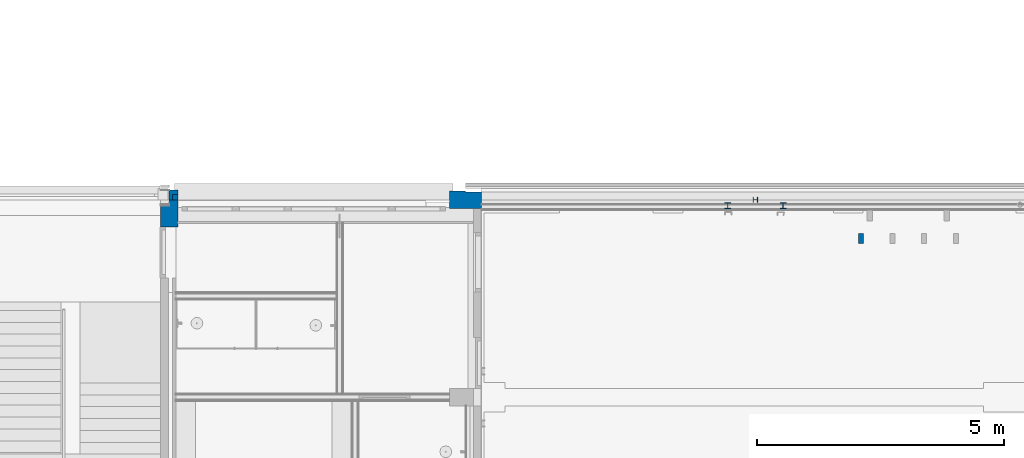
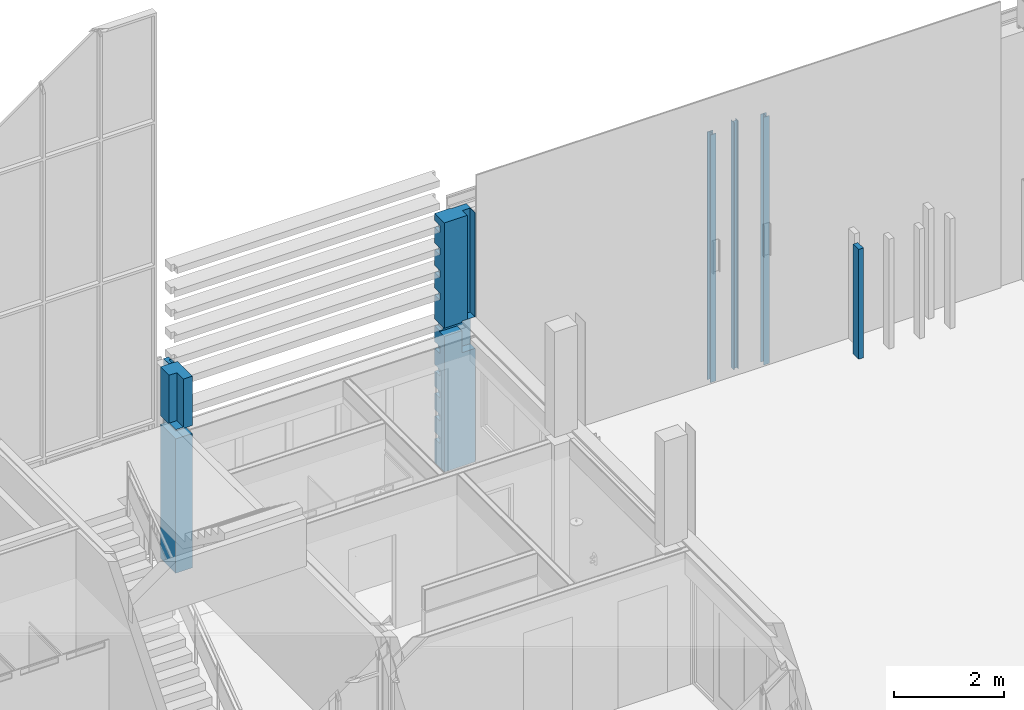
# One storey, part 8 of 109: 8 columns.
"""IFC2X3 building model written with IfcOpenShell, lengths in millimetres."""

from ifc_helpers import new_model, entity, si_unit, converted_unit, derived_unit, money_unit, direction, frame, origin_with_axes, place, context, subcontext, project, spatial, faceted_brep, material, type_object, element, save


model = new_model("IFC2X3")

# Units and contexts
model_context = context("Model", 3, precision=0.01, world=origin_with_axes(), true_north=direction((0.0, 1.0)))
body_context = subcontext(model_context, "Body", "Model", "MODEL_VIEW")
ifc_project = project(units=[si_unit("LENGTHUNIT", "METRE", prefix="MILLI"), si_unit("AREAUNIT", "SQUARE_METRE"), si_unit("VOLUMEUNIT", "CUBIC_METRE"), converted_unit("PLANEANGLEUNIT", "DEGREE", entity("IfcPlaneAngleMeasure", 0.0174532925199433), si_unit("PLANEANGLEUNIT", "RADIAN"), dimensions=[0, 0, 0, 0, 0, 0, 0]), money_unit("EUR"), converted_unit("TIMEUNIT", "Year", entity("IfcTimeMeasure", 31557600.0), si_unit("TIMEUNIT", "SECOND"), dimensions=[0, 0, 1, 0, 0, 0, 0]), si_unit("MASSUNIT", "GRAM", prefix="KILO"), si_unit("THERMODYNAMICTEMPERATUREUNIT", "DEGREE_CELSIUS"), si_unit("LUMINOUSINTENSITYUNIT", "LUMEN"), si_unit("ENERGYUNIT", "JOULE", prefix="MEGA"), derived_unit("THERMALCONDUCTANCEUNIT", [(si_unit("POWERUNIT", "WATT"), 1), (si_unit("LENGTHUNIT", "METRE"), -1), (si_unit("THERMODYNAMICTEMPERATUREUNIT", "KELVIN"), -1)]), derived_unit("SPECIFICHEATCAPACITYUNIT", [(si_unit("ENERGYUNIT", "JOULE"), 1), (si_unit("MASSUNIT", "GRAM", prefix="KILO"), -1), (si_unit("THERMODYNAMICTEMPERATUREUNIT", "KELVIN"), -1)]), derived_unit("MASSDENSITYUNIT", [(si_unit("MASSUNIT", "GRAM", prefix="KILO"), 1), (si_unit("VOLUMEUNIT", "CUBIC_METRE"), -1)])], contexts=[model_context])

# Site, building, storey
site_placement = place(None, origin_with_axes())
site = spatial("IfcSite", under=ifc_project, at=site_placement, Name="<site naam>", CompositionType="ELEMENT")
building_placement = place(site_placement, origin_with_axes())
building = spatial("IfcBuilding", under=site, at=building_placement, Name="<Naam gebouw>", CompositionType="ELEMENT")
storey_placement = place(building_placement, origin_with_axes())
storey = spatial("IfcBuildingStorey", under=building, at=storey_placement, Name="00 Begane grond", CompositionType="ELEMENT", Elevation=0.0)

# Columns
ifc_material_1 = material(Name="betonblok C")
column_type_1 = type_object("IfcColumnType", Name="betonblok C 350 x 550", PredefinedType="COLUMN")
column_1_placement = place(storey_placement, frame((52000.00000000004, 19724.99999999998, 0.0), z_axis=(0.0, 0.0, 1.0), x_axis=(1.0, 0.0, 0.0)))
element("IfcColumn", 1, at=column_1_placement, inside=storey, type_object=column_type_1, material=ifc_material_1, Name="28_Kolom_betonblok", ObjectType="COLUMN", context=body_context, shape_type="Brep", body=[
    faceted_brep([(174.9999999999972, 275.0000000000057, 500.0), (174.9999999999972, 264.9999975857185, 500.0), (174.9999999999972, 264.9999975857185, 649.9999999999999), (174.9999999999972, 275.0000000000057, 649.9999999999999), (174.9999999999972, 275.0000000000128, 1000.0), (174.9999999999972, 264.9999975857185, 1000.0), (174.9999999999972, 264.9999975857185, 1150.0), (174.9999999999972, 275.0000000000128, 1150.0), (174.9999999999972, 275.0000000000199, 1510.0), (174.9999999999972, 264.9999975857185, 1510.0), (174.9999999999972, 264.9999975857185, 1660.0), (174.9999999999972, 275.0000000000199, 1660.0), (174.9999999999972, 275.0000000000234, 2000.0), (174.9999999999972, 264.9999975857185, 2000.0), (174.9999999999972, 264.9999975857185, 2150.0), (174.9999999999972, 275.000000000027, 2150.0), (174.9999999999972, 275.0000000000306, 2500.0), (174.9999999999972, 264.9999975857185, 2500.0), (174.9999999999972, 264.9999975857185, 2650.0), (174.9999999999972, 275.0000000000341, 2650.0), (174.9999999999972, 275.0000000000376, 2978.0), (174.9999999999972, -274.9999999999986, 2978.0), (174.9999999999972, -274.9999999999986, 0.0), (174.9999999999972, 274.9999999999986, 0.0), (104.9999999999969, 264.9999975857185, 500.0), (104.9999999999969, 275.0000000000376, 500.0), (104.9999999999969, 264.9999975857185, 649.9999999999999), (104.9999999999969, 275.0000000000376, 649.9999999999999), (-174.9999999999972, 274.9999999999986, 0.0), (-174.9999999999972, 275.0000000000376, 2978.0), (104.9999999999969, 275.0000000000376, 2650.0), (104.9999999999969, 275.0000000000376, 2500.0), (104.9999999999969, 275.0000000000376, 2150.0), (104.9999999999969, 275.0000000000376, 2000.0), (104.9999999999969, 275.0000000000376, 1660.0), (104.9999999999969, 275.0000000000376, 1510.0), (104.9999999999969, 275.0000000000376, 1150.0), (104.9999999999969, 275.0000000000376, 1000.0), (104.9999999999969, 264.9999975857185, 1000.0), (104.9999999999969, 264.9999975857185, 1150.0), (104.9999999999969, 264.9999975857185, 1510.0), (104.9999999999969, 264.9999975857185, 1660.0), (104.9999999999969, 264.9999975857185, 2000.0), (104.9999999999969, 264.9999975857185, 2150.0), (104.9999999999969, 264.9999975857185, 2500.0), (104.9999999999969, 264.9999975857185, 2650.0), (-174.9999999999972, -274.9999999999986, 2978.0), (-174.9999999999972, -274.9999999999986, 0.0)], [[[0, 1, 2, 3, 4, 5, 6, 7, 8, 9, 10, 11, 12, 13, 14, 15, 16, 17, 18, 19, 20, 21, 22, 23]], [[24, 1, 0, 25]], [[26, 2, 1, 24]], [[26, 27, 3, 2]], [[27, 25, 0, 23, 28, 29, 20, 19, 30, 31, 16, 15, 32, 33, 12, 11, 34, 35, 8, 7, 36, 37, 4, 3]], [[38, 5, 4, 37]], [[39, 6, 5, 38]], [[39, 36, 7, 6]], [[40, 9, 8, 35]], [[41, 10, 9, 40]], [[41, 34, 11, 10]], [[42, 13, 12, 33]], [[43, 14, 13, 42]], [[43, 32, 15, 14]], [[44, 17, 16, 31]], [[45, 18, 17, 44]], [[45, 30, 19, 18]], [[29, 46, 21, 20]], [[47, 22, 21, 46]], [[47, 28, 23, 22]], [[24, 25, 27, 26]], [[28, 47, 46, 29]], [[44, 31, 30, 45]], [[42, 33, 32, 43]], [[40, 35, 34, 41]], [[38, 37, 36, 39]]]),
    faceted_brep([(174.9999999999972, 275.0000000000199, 3687.5), (174.9999999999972, 264.9999975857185, 3687.5), (174.9999999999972, 264.9999975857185, 3837.5), (174.9999999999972, 275.0000000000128, 3837.5), (174.9999999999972, 275.0000000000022, 4187.5), (174.9999999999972, 264.9999975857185, 4187.5), (174.9999999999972, 264.9999975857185, 4250.0), (174.9999999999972, -274.9999999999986, 4250.0), (174.9999999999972, -274.9999999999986, 3158.0), (174.9999999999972, 275.0000000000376, 3158.0), (104.9999999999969, 264.9999975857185, 3687.5), (104.9999999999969, 275.0000000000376, 3687.5), (104.9999999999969, 264.9999975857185, 3837.5), (104.9999999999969, 275.0000000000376, 3837.5), (-174.9999999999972, 275.0000000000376, 3158.0), (-174.9999999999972, 274.9999999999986, 4250.0), (104.9999999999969, 274.9999999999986, 4250.0), (104.9999999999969, 275.0000000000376, 4187.5), (104.9999999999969, 264.9999975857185, 4187.5), (104.9999999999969, 264.9999975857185, 4250.0), (-175.0000000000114, -39.08932188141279, 4250.0), (-15.00000000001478, -39.08932188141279, 4250.0), (-15.00000000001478, -274.9999999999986, 4250.0), (-15.00000000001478, -274.9999999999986, 3188.0), (-175.0000000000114, -274.9999999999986, 3188.0), (-174.9999999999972, -274.9999999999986, 3158.0), (-175.0000000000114, -39.08932188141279, 3188.0), (-15.00000000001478, -39.08932188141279, 3188.0)], [[[0, 1, 2, 3, 4, 5, 6, 7, 8, 9]], [[10, 1, 0, 11]], [[12, 2, 1, 10]], [[12, 13, 3, 2]], [[13, 11, 0, 9, 14, 15, 16, 17, 4, 3]], [[18, 5, 4, 17]], [[18, 19, 6, 5]], [[6, 19, 16, 15, 20, 21, 22, 7]], [[23, 24, 25, 8, 7, 22]], [[8, 25, 14, 9]], [[10, 11, 13, 12]], [[20, 15, 14, 25, 24, 26]], [[18, 17, 16, 19]], [[20, 26, 27, 21]], [[21, 27, 23, 22]], [[23, 27, 26, 24]]]),
])
column_type_2 = type_object("IfcColumnType", Name="betonblok C 350 x 650", PredefinedType="COLUMN")
column_2_placement = place(storey_placement, frame((58000.00000000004, 19999.99999999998, -30.0), z_axis=(0.0, 0.0, 1.0), x_axis=(0.0, -1.0, 0.0)))
element("IfcColumn", 2, at=column_2_placement, inside=storey, type_object=column_type_2, material=ifc_material_1, Name="28_Kolom_betonblok", ObjectType="COLUMN", context=body_context, shape_type="Brep", body=[
    faceted_brep([(0.0, 324.9999999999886, 3217.5), (0.0, 324.9999999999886, 2517.5), (175.0000000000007, 324.9999999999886, 2517.5), (175.0000000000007, 325.0000000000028, 30.0), (-160.0000000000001, 325.0000000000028, 30.0), (-160.0000000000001, 325.0000000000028, 5524.999999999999), (175.0000000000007, 325.0000000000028, 5524.999999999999), (175.0000000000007, 324.9999999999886, 3217.5), (0.0, 44.99999999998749, 3217.5), (0.0, 44.99999999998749, 3188.0), (0.0, -325.0000000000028, 3188.0), (0.0, -325.0000000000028, 3180.0), (0.0, -254.5009301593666, 3180.0), (0.0, -254.5009301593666, 3030.0), (0.0, -325.0000000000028, 3030.0), (0.0, -325.0000000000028, 3008.0), (0.0, 44.99999999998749, 3008.0), (0.0, 44.99999999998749, 2517.5), (175.0000000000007, 44.99999999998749, 2517.5), (174.9999999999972, 44.99999999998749, 3008.0), (175.0000000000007, -325.0000000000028, 3008.0), (175.0000000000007, -325.0000000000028, 0.0), (175.0000000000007, 317.7828447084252, 0.0), (175.0000000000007, 317.7828447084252, 29.99999997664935), (-160.0000000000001, 317.7828447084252, 30.0), (-160.0000000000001, 0.0, 0.0), (-160.0000000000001, 0.0, 5524.999999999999), (-160.0000000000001, 317.7828447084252, 0.0), (175.0000000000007, 317.7828447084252, 5524.999999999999), (-175.0000000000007, 0.0, 5524.999999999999), (-175.0000000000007, -325.0000000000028, 5524.999999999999), (175.0000000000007, -325.0000000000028, 5524.999999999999), (175.0000000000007, 157.7828447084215, 5524.999999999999), (0.0, 157.7828447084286, 5524.999999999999), (0.0, 317.7828447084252, 5524.999999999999), (174.9999999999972, 44.99999999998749, 3188.0), (175.0000000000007, 44.99999999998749, 3217.5), (175.0000000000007, 317.7828447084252, 3218.0), (175.0000000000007, 157.7828447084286, 3218.0), (175.0000000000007, -325.0000000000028, 3188.0), (10.00000241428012, -325.0000000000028, 3867.5), (10.00000241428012, -325.0000000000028, 3717.5), (-175.0000000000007, -325.0000000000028, 3717.5), (-175.0000000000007, -325.0000000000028, 3180.0), (-175.0000000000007, -325.0000000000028, 5367.500000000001), (10.00000241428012, -325.0000000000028, 5367.500000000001), (10.00000241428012, -325.0000000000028, 5217.5), (-175.0000000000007, -325.0000000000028, 5217.5), (-175.0000000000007, -325.0000000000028, 4867.500000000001), (10.00000241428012, -325.0000000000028, 4867.500000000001), (10.00000241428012, -325.0000000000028, 4717.5), (-175.0000000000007, -325.0000000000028, 4717.5), (-175.0000000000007, -325.0000000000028, 4367.500000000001), (10.00000241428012, -325.0000000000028, 4367.500000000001), (10.00000241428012, -325.0000000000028, 4217.5), (-175.0000000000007, -325.0000000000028, 4217.5), (-175.0000000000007, -325.0000000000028, 3867.5), (-175.0000000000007, -254.5009301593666, 3180.0), (-175.0000000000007, -254.5009301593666, 3030.0), (-175.0000000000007, -325.0000000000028, 3030.0), (10.00000241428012, -325.0000000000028, 679.9999999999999), (10.00000241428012, -325.0000000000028, 530.0), (-175.0000000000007, -325.0000000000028, 530.0), (-175.0000000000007, -325.0000000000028, 0.0), (-175.0000000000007, -325.0000000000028, 2680.0), (10.00000241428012, -325.0000000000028, 2680.0), (10.00000241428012, -325.0000000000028, 2530.0), (-175.0000000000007, -325.0000000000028, 2530.0), (-175.0000000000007, -325.0000000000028, 2180.0), (10.00000241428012, -325.0000000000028, 2180.0), (10.00000241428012, -325.0000000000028, 2030.0), (-175.0000000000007, -325.0000000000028, 2030.0), (-175.0000000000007, -325.0000000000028, 1690.0), (10.00000241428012, -325.0000000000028, 1690.0), (10.00000241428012, -325.0000000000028, 1540.0), (-175.0000000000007, -325.0000000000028, 1540.0), (-175.0000000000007, -325.0000000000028, 1180.0), (10.00000241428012, -325.0000000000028, 1180.0), (10.00000241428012, -325.0000000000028, 1030.0), (-175.0000000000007, -325.0000000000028, 1030.0), (-175.0000000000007, -325.0000000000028, 679.9999999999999), (-175.0000000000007, 0.0, 0.0), (-175.0000000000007, -254.5009301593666, 530.0), (-175.0000000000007, -254.5009301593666, 679.9999999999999), (-175.0000000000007, -254.5009301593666, 1030.0), (-175.0000000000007, -254.5009301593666, 1180.0), (-175.0000000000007, -254.5009301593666, 1540.0), (-175.0000000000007, -254.5009301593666, 1690.0), (-175.0000000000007, -254.5009301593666, 2030.0), (-175.0000000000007, -254.5009301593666, 2180.0), (-175.0000000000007, -254.5009301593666, 2530.0), (-175.0000000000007, -254.5009301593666, 2680.0), (-175.0000000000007, -254.5009301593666, 3717.5), (-175.0000000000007, -254.5009301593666, 3867.5), (-175.0000000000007, -254.5009301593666, 4217.5), (-175.0000000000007, -254.5009301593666, 4367.500000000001), (-175.0000000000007, -254.5009301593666, 4717.5), (-175.0000000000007, -254.5009301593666, 4867.500000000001), (-175.0000000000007, -254.5009301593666, 5217.5), (-175.0000000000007, -254.5009301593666, 5367.500000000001), (0.0, 157.7828447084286, 3218.0), (0.0, 317.7828447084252, 3218.0), (10.00000241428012, -254.5009301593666, 3717.5), (10.00000241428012, -254.5009301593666, 3867.5), (10.00000241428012, -254.5009301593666, 5367.500000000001), (10.00000241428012, -254.5009301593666, 5217.5), (10.00000241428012, -254.5009301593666, 4867.500000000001), (10.00000241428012, -254.5009301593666, 4717.5), (10.00000241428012, -254.5009301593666, 4367.500000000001), (10.00000241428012, -254.5009301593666, 4217.5), (10.00000241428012, -254.5009301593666, 530.0), (10.00000241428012, -254.5009301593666, 679.9999999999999), (10.00000241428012, -254.5009301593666, 2680.0), (10.00000241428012, -254.5009301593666, 2530.0), (10.00000241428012, -254.5009301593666, 2180.0), (10.00000241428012, -254.5009301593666, 2030.0), (10.00000241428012, -254.5009301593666, 1690.0), (10.00000241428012, -254.5009301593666, 1540.0), (10.00000241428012, -254.5009301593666, 1180.0), (10.00000241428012, -254.5009301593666, 1030.0)], [[[0, 1, 2, 3, 4, 5, 6, 7]], [[8, 9, 10, 11, 12, 13, 14, 15, 16, 17, 1, 0]], [[18, 2, 1, 17]], [[2, 18, 19, 20, 21, 22, 23, 3]], [[3, 23, 24, 4]], [[25, 26, 5, 4, 24, 27]], [[28, 6, 5, 26, 29, 30, 31, 32, 33, 34]], [[35, 36, 7, 6, 28, 37, 38, 32, 31, 39]], [[8, 0, 7, 36]], [[36, 35, 9, 8]], [[10, 9, 35, 39]], [[40, 41, 42, 43, 11, 10, 39, 31, 30, 44, 45, 46, 47, 48, 49, 50, 51, 52, 53, 54, 55, 56]], [[11, 43, 57, 12]], [[12, 57, 58, 13]], [[13, 58, 59, 14]], [[60, 61, 62, 63, 21, 20, 15, 14, 59, 64, 65, 66, 67, 68, 69, 70, 71, 72, 73, 74, 75, 76, 77, 78, 79, 80]], [[20, 19, 16, 15]], [[17, 16, 19, 18]], [[81, 25, 27, 22, 21, 63]], [[23, 22, 27, 24]], [[81, 29, 26, 25]], [[63, 62, 82, 83, 80, 79, 84, 85, 76, 75, 86, 87, 72, 71, 88, 89, 68, 67, 90, 91, 64, 59, 58, 57, 43, 42, 92, 93, 56, 55, 94, 95, 52, 51, 96, 97, 48, 47, 98, 99, 44, 30, 29, 81]], [[100, 33, 32, 38]], [[101, 34, 33, 100]], [[37, 28, 34, 101]], [[37, 101, 100, 38]], [[102, 41, 40, 103]], [[102, 92, 42, 41]], [[45, 44, 99, 104]], [[105, 46, 45, 104]], [[105, 98, 47, 46]], [[49, 48, 97, 106]], [[107, 50, 49, 106]], [[107, 96, 51, 50]], [[53, 52, 95, 108]], [[109, 54, 53, 108]], [[109, 94, 55, 54]], [[40, 56, 93, 103]], [[110, 61, 60, 111]], [[110, 82, 62, 61]], [[65, 64, 91, 112]], [[113, 66, 65, 112]], [[113, 90, 67, 66]], [[69, 68, 89, 114]], [[115, 70, 69, 114]], [[115, 88, 71, 70]], [[73, 72, 87, 116]], [[117, 74, 73, 116]], [[117, 86, 75, 74]], [[77, 76, 85, 118]], [[119, 78, 77, 118]], [[119, 84, 79, 78]], [[60, 80, 83, 111]], [[111, 83, 82, 110]], [[118, 85, 84, 119]], [[116, 87, 86, 117]], [[114, 89, 88, 115]], [[112, 91, 90, 113]], [[103, 93, 92, 102]], [[108, 95, 94, 109]], [[106, 97, 96, 107]], [[104, 99, 98, 105]]]),
])
column_type_3 = type_object("IfcColumnType", Name="betonblok C 175 x 195", PredefinedType="COLUMN")
column_3_placement = place(storey_placement, frame((52087.49973718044, 20097.50000194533, 0.0), z_axis=(0.0, 0.0, 1.0), x_axis=(1.0, 0.0, 0.0)))
element("IfcColumn", 3, at=column_3_placement, inside=storey, type_object=column_type_3, material=ifc_material_1, Name="28_Kolom_betonblok", ObjectType="COLUMN", context=body_context, shape_type="Brep", body=[
    faceted_brep([(87.50026281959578, -97.50000194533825, 1000.0), (87.50026281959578, -97.50000194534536, 649.9999999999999), (87.50026281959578, 97.50000194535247, 649.9999999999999), (87.50026281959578, 97.50000194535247, 1000.0), (17.50026281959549, -97.50000194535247, 500.0), (17.50026281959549, -97.50000194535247, 649.9999999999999), (17.50026281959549, -97.50000194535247, 1000.0), (17.50026281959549, -97.50000194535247, 1150.0), (87.50026281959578, -97.50000194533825, 1150.0), (87.50026281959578, -97.50000194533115, 1510.0), (17.50026281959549, -97.50000194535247, 1510.0), (17.50026281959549, -97.50000194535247, 1660.0), (87.50026281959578, -97.50000194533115, 1660.0), (87.50026281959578, -97.5000019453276, 2000.0), (17.50026281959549, -97.50000194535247, 2000.0), (17.50026281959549, -97.50000194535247, 2150.0), (87.50026281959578, -97.50000194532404, 2150.0), (87.50026281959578, -97.50000194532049, 2500.0), (17.50026281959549, -97.50000194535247, 2500.0), (17.50026281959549, -97.50000194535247, 2650.0), (87.50026281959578, -97.50000194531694, 2650.0), (87.50026281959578, -97.50000194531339, 3000.0), (17.50026281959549, -97.50000194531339, 3000.0), (17.50026281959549, -97.50000194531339, 3150.0), (87.50026281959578, -97.50000194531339, 3150.0), (87.50026281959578, -97.50000194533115, 3687.5), (17.50026281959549, -97.50000194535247, 3687.5), (17.50026281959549, -97.50000194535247, 3837.5), (87.50026281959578, -97.50000194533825, 3837.5), (87.50026281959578, -97.50000194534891, 4187.5), (17.50026281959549, -97.50000194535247, 4187.5), (17.50026281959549, -97.50000194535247, 4250.0), (-87.50026281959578, -97.50000194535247, 4250.0), (-87.50026281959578, -97.50000194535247, 0.0), (87.50026281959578, -97.50000194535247, 0.0), (87.50026281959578, -97.50000194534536, 500.0), (17.50026281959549, 97.50000194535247, 649.9999999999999), (17.50026281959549, 97.50000194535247, 500.0), (87.50026281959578, 97.50000194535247, 500.0), (87.50026281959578, 97.50000194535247, 0.0), (-87.50026281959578, 97.50000194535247, 0.0), (-87.50026281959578, 97.50000194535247, 4250.0), (17.50026281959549, 97.50000194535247, 4250.0), (17.50026281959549, 97.50000194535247, 4187.5), (87.50026281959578, 97.50000194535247, 4187.5), (87.50026281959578, 97.50000194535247, 3837.5), (17.50026281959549, 97.50000194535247, 3837.5), (17.50026281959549, 97.50000194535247, 3687.5), (87.50026281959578, 97.50000194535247, 3687.5), (87.50026281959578, 97.50000194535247, 3150.0), (17.50026281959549, 97.50000194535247, 3150.0), (17.50026281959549, 97.50000194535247, 3000.0), (87.50026281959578, 97.50000194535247, 3000.0), (87.50026281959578, 97.50000194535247, 2650.0), (17.50026281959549, 97.50000194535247, 2650.0), (17.50026281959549, 97.50000194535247, 2500.0), (87.50026281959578, 97.50000194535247, 2500.0), (87.50026281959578, 97.50000194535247, 2150.0), (17.50026281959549, 97.50000194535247, 2150.0), (17.50026281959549, 97.50000194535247, 2000.0), (87.50026281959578, 97.50000194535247, 2000.0), (87.50026281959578, 97.50000194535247, 1660.0), (17.50026281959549, 97.50000194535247, 1660.0), (17.50026281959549, 97.50000194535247, 1510.0), (87.50026281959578, 97.50000194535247, 1510.0), (87.50026281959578, 97.50000194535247, 1150.0), (17.50026281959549, 97.50000194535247, 1150.0), (17.50026281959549, 97.50000194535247, 1000.0)], [[[0, 1, 2, 3]], [[4, 5, 1, 0, 6, 7, 8, 9, 10, 11, 12, 13, 14, 15, 16, 17, 18, 19, 20, 21, 22, 23, 24, 25, 26, 27, 28, 29, 30, 31, 32, 33, 34, 35]], [[5, 36, 2, 1]], [[36, 37, 38, 39, 40, 41, 42, 43, 44, 45, 46, 47, 48, 49, 50, 51, 52, 53, 54, 55, 56, 57, 58, 59, 60, 61, 62, 63, 64, 65, 66, 67, 3, 2]], [[6, 0, 3, 67]], [[4, 37, 36, 5]], [[6, 67, 66, 7]], [[7, 66, 65, 8]], [[9, 8, 65, 64]], [[10, 9, 64, 63]], [[10, 63, 62, 11]], [[11, 62, 61, 12]], [[13, 12, 61, 60]], [[14, 13, 60, 59]], [[14, 59, 58, 15]], [[15, 58, 57, 16]], [[17, 16, 57, 56]], [[18, 17, 56, 55]], [[18, 55, 54, 19]], [[19, 54, 53, 20]], [[21, 20, 53, 52]], [[22, 21, 52, 51]], [[22, 51, 50, 23]], [[23, 50, 49, 24]], [[49, 48, 25, 24]], [[26, 25, 48, 47]], [[26, 47, 46, 27]], [[27, 46, 45, 28]], [[29, 28, 45, 44]], [[30, 29, 44, 43]], [[30, 43, 42, 31]], [[32, 31, 42, 41]], [[32, 41, 40, 33]], [[39, 34, 33, 40]], [[39, 38, 35, 34]], [[4, 35, 38, 37]]]),
])
ifc_material_2 = material(Name="staal C")
column_type_4 = type_object("IfcColumnType", Name="Profiel H algemeen 100 x 96", PredefinedType="COLUMN")
column_4_placement = place(storey_placement, frame((63870.00000000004, 20000.00000000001, 0.0), z_axis=(0.0, 0.0, 1.0), x_axis=(0.0, 1.0, 0.0)))
element("IfcColumn", 4, at=column_4_placement, inside=storey, type_object=column_type_4, material=ifc_material_2, Name="28_Kolom_Profiel", ObjectType="COLUMN", context=body_context, shape_type="Brep", body=[
    faceted_brep([(-50.00000010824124, -48.00000037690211, 5494.999999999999), (-50.00000010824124, -48.00000037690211, 0.0), (50.00000010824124, -48.00000037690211, 0.0), (50.00000010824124, -48.00000037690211, 5494.999999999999), (-50.00000016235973, -39.99999789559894, 5494.999999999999), (-50.00000016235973, -39.99999789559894, 0.0), (-2.500000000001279, -39.99999789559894, 0.0), (-2.499999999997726, 39.99999789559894, 0.0), (-50.00000016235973, 39.99999789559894, 0.0), (-50.00000010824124, 48.00000037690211, 0.0), (50.00000010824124, 48.00000037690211, 0.0), (50.00000016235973, 39.99999789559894, 0.0), (2.500000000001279, 39.99999789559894, 0.0), (2.500000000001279, -39.99999789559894, 0.0), (50.00000016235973, -39.99999789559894, 0.0), (50.00000016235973, -39.99999789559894, 5494.999999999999), (2.500000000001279, -39.99999789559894, 5494.999999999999), (2.500000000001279, 39.99999789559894, 5494.999999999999), (50.00000016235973, 39.99999789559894, 5494.999999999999), (50.00000010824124, 48.00000037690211, 5494.999999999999), (-50.00000010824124, 48.00000037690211, 5494.999999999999), (-50.00000016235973, 39.99999789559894, 5494.999999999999), (-2.499999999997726, 39.99999789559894, 5494.999999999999), (-2.500000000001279, -39.99999789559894, 5494.999999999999)], [[[0, 1, 2, 3]], [[4, 5, 1, 0]], [[2, 1, 5, 6, 7, 8, 9, 10, 11, 12, 13, 14]], [[3, 2, 14, 15]], [[4, 0, 3, 15, 16, 17, 18, 19, 20, 21, 22, 23]], [[23, 6, 5, 4]], [[22, 7, 6, 23]], [[21, 8, 7, 22]], [[20, 9, 8, 21]], [[19, 10, 9, 20]], [[18, 11, 10, 19]], [[17, 12, 11, 18]], [[16, 13, 12, 17]], [[15, 14, 13, 16]]]),
])
ifc_material_3 = material(Name="ALG - ALGEMEEN")
column_type_5 = type_object("IfcColumnType", Name="ALG - ALGEMEEN 100 x 200", PredefinedType="COLUMN")
column_5_placement = place(storey_placement, frame((66006.21700316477, 19214.99223058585, 0.0), z_axis=(0.0, 0.0, 1.0), x_axis=(1.0, 0.0, 0.0)))
element("IfcColumn", 5, at=column_5_placement, inside=storey, type_object=column_type_5, material=ifc_material_3, Name="77_Kolom_ALG", ObjectType="COLUMN", context=body_context, shape_type="Brep", body=[
    faceted_brep([(50.00001319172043, -100.0000001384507, 2437.500000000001), (50.00001319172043, -100.0000001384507, 2.999999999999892), (50.00001319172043, 100.0000001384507, 2.999999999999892), (50.00001319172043, 100.0000001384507, 2437.500000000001), (-50.00001319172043, -100.0000001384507, 2437.500000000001), (-50.00001319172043, -100.0000001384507, 2.999999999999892), (-50.00001319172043, 100.0000001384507, 2.999999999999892), (-50.00001319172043, 100.0000001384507, 2437.500000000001)], [[[0, 1, 2, 3]], [[4, 5, 1, 0]], [[5, 6, 2, 1]], [[3, 2, 6, 7]], [[3, 7, 4, 0]], [[7, 6, 5, 4]]]),
])
column_type_6 = type_object("IfcColumnType", Name="Profiel H algemeen 120 x 120", PredefinedType="COLUMN")
column_6_placement = place(storey_placement, frame((64429.99999999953, 19879.00116233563, 0.0), z_axis=(0.0, 0.0, 1.0), x_axis=(1.0, 0.0, 0.0)))
element("IfcColumn", 6, at=column_6_placement, inside=storey, type_object=column_type_6, material=ifc_material_2, Name="28_Kolom_Profiel", ObjectType="COLUMN", context=body_context, shape_type="Brep", body=[
    faceted_brep([(-60.00000000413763, -60.00152831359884, 5494.999999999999), (-60.00000000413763, -60.00152831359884, 0.0), (60.00000000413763, -60.00152831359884, 0.0), (60.00000000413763, -60.00152831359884, 5494.999999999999), (-60.00000000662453, -49.00152820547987, 5494.999999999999), (-60.00000000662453, -49.00152820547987, 0.0), (-3.249999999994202, -49.00152820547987, 0.0), (-3.249999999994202, 49.00152820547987, 0.0), (-60.00000000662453, 49.00152820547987, 0.0), (-60.00000000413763, 60.00152831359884, 0.0), (60.00000000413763, 60.00152831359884, 0.0), (60.00000000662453, 49.00152820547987, 0.0), (3.249999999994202, 49.00152820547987, 0.0), (3.249999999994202, -49.00152820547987, 0.0), (60.00000000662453, -49.00152820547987, 0.0), (60.00000000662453, -49.00152820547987, 5494.999999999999), (3.249999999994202, -49.00152820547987, 5494.999999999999), (3.249999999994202, 49.00152820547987, 5494.999999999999), (60.00000000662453, 49.00152820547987, 5494.999999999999), (60.00000000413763, 60.00152831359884, 5494.999999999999), (-60.00000000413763, 60.00152831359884, 5494.999999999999), (-60.00000000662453, 49.00152820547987, 5494.999999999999), (-3.249999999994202, 49.00152820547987, 5494.999999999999), (-3.249999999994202, -49.00152820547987, 5494.999999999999)], [[[0, 1, 2, 3]], [[4, 5, 1, 0]], [[2, 1, 5, 6, 7, 8, 9, 10, 11, 12, 13, 14]], [[3, 2, 14, 15]], [[4, 0, 3, 15, 16, 17, 18, 19, 20, 21, 22, 23]], [[23, 6, 5, 4]], [[22, 7, 6, 23]], [[21, 8, 7, 22]], [[20, 9, 8, 21]], [[19, 10, 9, 20]], [[18, 11, 10, 19]], [[17, 12, 11, 18]], [[16, 13, 12, 17]], [[15, 14, 13, 16]]]),
])
column_7_placement = place(storey_placement, frame((63310.00000000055, 19879.00116233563, 0.0), z_axis=(0.0, 0.0, 1.0), x_axis=(1.0, 0.0, 0.0)))
element("IfcColumn", 7, at=column_7_placement, inside=storey, type_object=column_type_6, material=ifc_material_2, Name="28_Kolom_Profiel", ObjectType="COLUMN", context=body_context, shape_type="Brep", body=[
    faceted_brep([(-60.00000000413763, -60.00152831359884, 5494.999999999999), (-60.00000000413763, -60.00152831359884, 0.0), (60.00000000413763, -60.00152831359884, 0.0), (60.00000000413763, -60.00152831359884, 5494.999999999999), (-60.00000000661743, -49.00152820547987, 5494.999999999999), (-60.00000000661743, -49.00152820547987, 0.0), (-3.250000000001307, -49.00152820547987, 0.0), (-3.250000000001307, 49.00152820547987, 0.0), (-60.00000000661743, 49.00152820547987, 0.0), (-60.00000000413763, 60.00152831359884, 0.0), (60.00000000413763, 60.00152831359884, 0.0), (60.00000000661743, 49.00152820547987, 0.0), (3.250000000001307, 49.00152820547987, 0.0), (3.250000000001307, -49.00152820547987, 0.0), (60.00000000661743, -49.00152820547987, 0.0), (60.00000000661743, -49.00152820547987, 5494.999999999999), (3.250000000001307, -49.00152820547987, 5494.999999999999), (3.250000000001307, 49.00152820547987, 5494.999999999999), (60.00000000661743, 49.00152820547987, 5494.999999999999), (60.00000000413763, 60.00152831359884, 5494.999999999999), (-60.00000000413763, 60.00152831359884, 5494.999999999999), (-60.00000000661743, 49.00152820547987, 5494.999999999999), (-3.250000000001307, 49.00152820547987, 5494.999999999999), (-3.250000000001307, -49.00152820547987, 5494.999999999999)], [[[0, 1, 2, 3]], [[4, 5, 1, 0]], [[2, 1, 5, 6, 7, 8, 9, 10, 11, 12, 13, 14]], [[3, 2, 14, 15]], [[4, 0, 3, 15, 16, 17, 18, 19, 20, 21, 22, 23]], [[23, 6, 5, 4]], [[22, 7, 6, 23]], [[21, 8, 7, 22]], [[20, 9, 8, 21]], [[19, 10, 9, 20]], [[18, 11, 10, 19]], [[17, 12, 11, 18]], [[16, 13, 12, 17]], [[15, 14, 13, 16]]]),
])
column_type_7 = type_object("IfcColumnType", Name="betonblok C 110 x 108", PredefinedType="COLUMN")
column_8_placement = place(storey_placement, frame((52120.00004818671, 20053.83733567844, 0.0), z_axis=(0.0, 0.0, 1.0), x_axis=(-1.0, 0.0, 0.0)))
element("IfcColumn", 8, at=column_8_placement, inside=storey, type_object=column_type_7, material=ifc_material_1, Name="28_Kolom_betonblok", ObjectType="COLUMN", context=body_context, shape_type="Brep", body=[
    faceted_brep([(-54.99997669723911, 53.83732081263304, 1000.0), (-54.99997669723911, 53.83731821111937, 649.9999999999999), (-54.99997669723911, -53.8373133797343, 649.9999999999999), (-54.99997669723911, -53.8373133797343, 1000.0), (15.00004818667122, 53.8373133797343, 500.0), (15.00004818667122, 53.8373133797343, 649.9999999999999), (15.00004818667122, 53.8373133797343, 1000.0), (15.00004818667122, 53.8373133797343, 1150.0), (-54.99997669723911, 53.83732192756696, 1150.0), (-54.99997669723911, 53.83732460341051, 1510.0), (15.00004818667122, 53.8373133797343, 1510.0), (15.00004818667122, 53.8373133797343, 1660.0), (-54.99997669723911, 53.83732571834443, 1660.0), (-54.99997669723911, 53.83732824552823, 2000.0), (15.00004818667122, 53.8373133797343, 2000.0), (15.00004818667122, 53.8373133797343, 2150.0), (-54.99997669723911, 53.8373293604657, 2150.0), (-54.99997669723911, 53.83733196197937, 2500.0), (15.00004818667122, 53.8373133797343, 2500.0), (15.00004818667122, 53.8373133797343, 2650.0), (-54.99997669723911, 53.8373330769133, 2650.0), (-54.99997669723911, 53.83733567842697, 3000.0), (15.00004818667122, 53.83733567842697, 3000.0), (15.00004818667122, 53.83733567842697, 3150.0), (-54.99997669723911, 53.83733567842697, 3150.0), (-54.99997669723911, 53.83732478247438, 3687.5), (15.00004818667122, 53.8373133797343, 3687.5), (15.00004818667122, 53.8373133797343, 3837.5), (-54.99997669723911, 53.83732174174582, 3837.5), (-54.99997669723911, 53.8373146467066, 4187.5), (15.00004818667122, 53.8373133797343, 4187.5), (15.00004818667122, 53.8373133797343, 4250.0), (54.99997669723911, 53.8373133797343, 4250.0), (54.99997669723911, 53.8373133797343, 0.0), (-54.99997669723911, 53.8373133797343, 0.0), (-54.99997669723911, 53.83731709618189, 500.0), (15.00004818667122, -53.8373133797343, 649.9999999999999), (15.00004818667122, -53.8373133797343, 500.0), (-54.99997669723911, -53.8373133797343, 500.0), (-54.99997669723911, -53.8373133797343, 0.0), (54.99997669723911, -53.8373133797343, 0.0), (54.99997669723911, -53.8373133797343, 4250.0), (15.00004818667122, -53.8373133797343, 4250.0), (15.00004818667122, -53.8373133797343, 4187.5), (-54.99997669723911, -53.8373133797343, 4187.5), (-54.99997669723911, -53.8373133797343, 3837.5), (15.00004818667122, -53.8373133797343, 3837.5), (15.00004818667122, -53.8373133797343, 3687.5), (-54.99997669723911, -53.8373133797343, 3687.5), (-54.99997669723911, -53.8373133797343, 3150.0), (15.00004818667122, -53.8373133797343, 3150.0), (15.00004818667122, -53.8373133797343, 3000.0), (-54.99997669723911, -53.8373133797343, 3000.0), (-54.99997669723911, -53.8373133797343, 2650.0), (15.00004818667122, -53.8373133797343, 2650.0), (15.00004818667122, -53.8373133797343, 2500.0), (-54.99997669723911, -53.8373133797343, 2500.0), (-54.99997669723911, -53.8373133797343, 2150.0), (15.00004818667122, -53.8373133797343, 2150.0), (15.00004818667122, -53.8373133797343, 2000.0), (-54.99997669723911, -53.8373133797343, 2000.0), (-54.99997669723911, -53.8373133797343, 1660.0), (15.00004818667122, -53.8373133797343, 1660.0), (15.00004818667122, -53.8373133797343, 1510.0), (-54.99997669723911, -53.8373133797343, 1510.0), (-54.99997669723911, -53.8373133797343, 1150.0), (15.00004818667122, -53.8373133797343, 1150.0), (15.00004818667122, -53.8373133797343, 1000.0)], [[[0, 1, 2, 3]], [[4, 5, 1, 0, 6, 7, 8, 9, 10, 11, 12, 13, 14, 15, 16, 17, 18, 19, 20, 21, 22, 23, 24, 25, 26, 27, 28, 29, 30, 31, 32, 33, 34, 35]], [[5, 36, 2, 1]], [[36, 37, 38, 39, 40, 41, 42, 43, 44, 45, 46, 47, 48, 49, 50, 51, 52, 53, 54, 55, 56, 57, 58, 59, 60, 61, 62, 63, 64, 65, 66, 67, 3, 2]], [[6, 0, 3, 67]], [[4, 37, 36, 5]], [[6, 67, 66, 7]], [[7, 66, 65, 8]], [[9, 8, 65, 64]], [[10, 9, 64, 63]], [[10, 63, 62, 11]], [[11, 62, 61, 12]], [[13, 12, 61, 60]], [[14, 13, 60, 59]], [[14, 59, 58, 15]], [[15, 58, 57, 16]], [[17, 16, 57, 56]], [[18, 17, 56, 55]], [[18, 55, 54, 19]], [[19, 54, 53, 20]], [[21, 20, 53, 52]], [[22, 21, 52, 51]], [[22, 51, 50, 23]], [[23, 50, 49, 24]], [[49, 48, 25, 24]], [[26, 25, 48, 47]], [[26, 47, 46, 27]], [[27, 46, 45, 28]], [[29, 28, 45, 44]], [[30, 29, 44, 43]], [[30, 43, 42, 31]], [[32, 31, 42, 41]], [[32, 41, 40, 33]], [[33, 40, 39, 34]], [[39, 38, 35, 34]], [[4, 35, 38, 37]]]),
])

save(model, "model.ifc")
